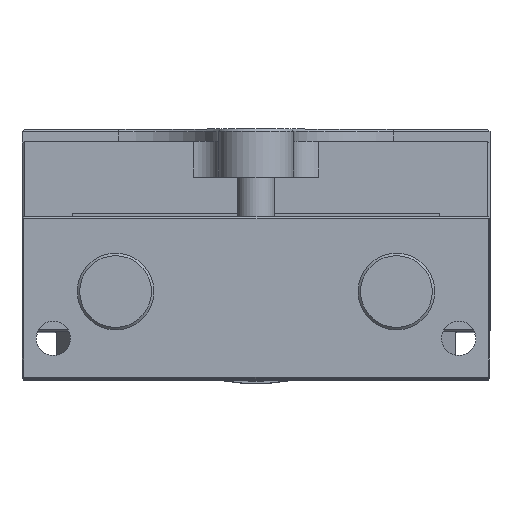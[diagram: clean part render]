
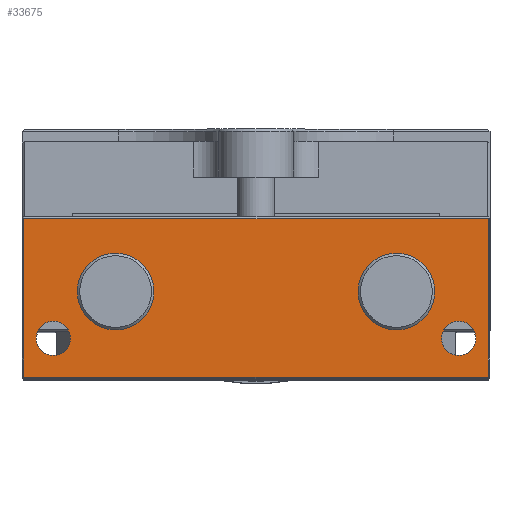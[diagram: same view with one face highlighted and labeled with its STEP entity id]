
A CAD part, top view. The second image highlights one B-rep face of the part: STEP entity #33675.
In plain terms, the highlighted planar face has unit normal (0, 0, 1).
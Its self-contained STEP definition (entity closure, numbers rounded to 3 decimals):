
#820 = CARTESIAN_POINT ( 'NONE',  ( -45., 28., 290. ) ) ;
#903 = EDGE_LOOP ( 'NONE', ( #33266 ) ) ;
#1779 = DIRECTION ( 'NONE',  ( -1., 0., 0. ) ) ;
#1939 = CIRCLE ( 'NONE', #30996, 5.5 ) ;
#2321 = PLANE ( 'NONE',  #29566 ) ;
#2900 = CARTESIAN_POINT ( 'NONE',  ( 74.4, 51.4, 290. ) ) ;
#3474 = VECTOR ( 'NONE', #32657, 1000. ) ;
#3550 = DIRECTION ( 'NONE',  ( -1., 0., 0. ) ) ;
#4125 = FACE_BOUND ( 'NONE', #34207, .T. ) ;
#4312 = LINE ( 'NONE', #8073, #3474 ) ;
#4436 = VERTEX_POINT ( 'NONE', #12056 ) ;
#4589 = EDGE_CURVE ( 'NONE', #26818, #11218, #6415, .T. ) ;
#5322 = DIRECTION ( 'NONE',  ( 0., 0., -1. ) ) ;
#5750 = CIRCLE ( 'NONE', #27689, 12.3 ) ;
#6415 = LINE ( 'NONE', #31718, #34623 ) ;
#7768 = CARTESIAN_POINT ( 'NONE',  ( -75., 0., 290. ) ) ;
#8073 = CARTESIAN_POINT ( 'NONE',  ( 75., 0.6, 290. ) ) ;
#8304 = CARTESIAN_POINT ( 'NONE',  ( -57.3, 28., 290. ) ) ;
#9884 = VERTEX_POINT ( 'NONE', #2900 ) ;
#10536 = DIRECTION ( 'NONE',  ( -1., 0., 0. ) ) ;
#10548 = FACE_OUTER_BOUND ( 'NONE', #21899, .T. ) ;
#10794 = VECTOR ( 'NONE', #32991, 1000. ) ;
#10964 = CIRCLE ( 'NONE', #14466, 12.3 ) ;
#11218 = VERTEX_POINT ( 'NONE', #35412 ) ;
#11250 = VERTEX_POINT ( 'NONE', #35293 ) ;
#12056 = CARTESIAN_POINT ( 'NONE',  ( 74.4, 0.6, 290. ) ) ;
#12204 = DIRECTION ( 'NONE',  ( 0., 0., -1. ) ) ;
#12681 = EDGE_CURVE ( 'NONE', #11218, #4436, #4312, .T. ) ;
#13207 = LINE ( 'NONE', #32939, #26819 ) ;
#13751 = ORIENTED_EDGE ( 'NONE', *, *, #12681, .T. ) ;
#13792 = ORIENTED_EDGE ( 'NONE', *, *, #4589, .T. ) ;
#14266 = ORIENTED_EDGE ( 'NONE', *, *, #21877, .T. ) ;
#14372 = EDGE_CURVE ( 'NONE', #9884, #26818, #13207, .T. ) ;
#14466 = AXIS2_PLACEMENT_3D ( 'NONE', #820, #19933, #3550 ) ;
#15394 = DIRECTION ( 'NONE',  ( 0., -1., 0. ) ) ;
#16552 = CARTESIAN_POINT ( 'NONE',  ( 32.7, 28., 290. ) ) ;
#16584 = VERTEX_POINT ( 'NONE', #16552 ) ;
#16951 = FACE_BOUND ( 'NONE', #903, .T. ) ;
#17186 = LINE ( 'NONE', #30232, #10794 ) ;
#18100 = DIRECTION ( 'NONE',  ( 0., 0., -1. ) ) ;
#19340 = DIRECTION ( 'NONE',  ( -1., 0., 0. ) ) ;
#19806 = ORIENTED_EDGE ( 'NONE', *, *, #26259, .T. ) ;
#19933 = DIRECTION ( 'NONE',  ( 0., 0., -1. ) ) ;
#20899 = EDGE_LOOP ( 'NONE', ( #29596 ) ) ;
#21162 = EDGE_CURVE ( 'NONE', #33860, #33860, #1939, .T. ) ;
#21707 = CARTESIAN_POINT ( 'NONE',  ( 45., 28., 290. ) ) ;
#21877 = EDGE_CURVE ( 'NONE', #11250, #11250, #28740, .T. ) ;
#21899 = EDGE_LOOP ( 'NONE', ( #29022, #13792, #13751, #28794 ) ) ;
#22532 = EDGE_CURVE ( 'NONE', #4436, #9884, #17186, .T. ) ;
#24192 = FACE_BOUND ( 'NONE', #27928, .T. ) ;
#24290 = CARTESIAN_POINT ( 'NONE',  ( 59.5, 13., 290. ) ) ;
#24409 = DIRECTION ( 'NONE',  ( -1., 0., 0. ) ) ;
#25049 = FACE_BOUND ( 'NONE', #20899, .T. ) ;
#25643 = EDGE_CURVE ( 'NONE', #26985, #26985, #10964, .T. ) ;
#26259 = EDGE_CURVE ( 'NONE', #16584, #16584, #5750, .T. ) ;
#26818 = VERTEX_POINT ( 'NONE', #35133 ) ;
#26819 = VECTOR ( 'NONE', #19340, 1000. ) ;
#26843 = DIRECTION ( 'NONE',  ( 0., 0., -1. ) ) ;
#26985 = VERTEX_POINT ( 'NONE', #8304 ) ;
#27109 = AXIS2_PLACEMENT_3D ( 'NONE', #34454, #18100, #1779 ) ;
#27689 = AXIS2_PLACEMENT_3D ( 'NONE', #21707, #5322, #24409 ) ;
#27928 = EDGE_LOOP ( 'NONE', ( #14266 ) ) ;
#28523 = CARTESIAN_POINT ( 'NONE',  ( 65., 13., 290. ) ) ;
#28740 = CIRCLE ( 'NONE', #27109, 5.5 ) ;
#28794 = ORIENTED_EDGE ( 'NONE', *, *, #22532, .T. ) ;
#29022 = ORIENTED_EDGE ( 'NONE', *, *, #14372, .T. ) ;
#29566 = AXIS2_PLACEMENT_3D ( 'NONE', #7768, #26843, #10536 ) ;
#29596 = ORIENTED_EDGE ( 'NONE', *, *, #21162, .T. ) ;
#30232 = CARTESIAN_POINT ( 'NONE',  ( 74.4, 52., 290. ) ) ;
#30996 = AXIS2_PLACEMENT_3D ( 'NONE', #28523, #12204, #31259 ) ;
#31259 = DIRECTION ( 'NONE',  ( -1., 0., 0. ) ) ;
#31718 = CARTESIAN_POINT ( 'NONE',  ( -74.4, 0., 290. ) ) ;
#32657 = DIRECTION ( 'NONE',  ( 1., 0., 0. ) ) ;
#32939 = CARTESIAN_POINT ( 'NONE',  ( -75., 51.4, 290. ) ) ;
#32991 = DIRECTION ( 'NONE',  ( 0., 1., 0. ) ) ;
#33266 = ORIENTED_EDGE ( 'NONE', *, *, #25643, .T. ) ;
#33675 = ADVANCED_FACE ( 'NONE', ( #10548, #25049, #24192, #4125, #16951 ), #2321, .F. ) ;
#33860 = VERTEX_POINT ( 'NONE', #24290 ) ;
#34207 = EDGE_LOOP ( 'NONE', ( #19806 ) ) ;
#34454 = CARTESIAN_POINT ( 'NONE',  ( -65., 13., 290. ) ) ;
#34623 = VECTOR ( 'NONE', #15394, 1000. ) ;
#35133 = CARTESIAN_POINT ( 'NONE',  ( -74.4, 51.4, 290. ) ) ;
#35293 = CARTESIAN_POINT ( 'NONE',  ( -70.5, 13., 290. ) ) ;
#35412 = CARTESIAN_POINT ( 'NONE',  ( -74.4, 0.6, 290. ) ) ;
